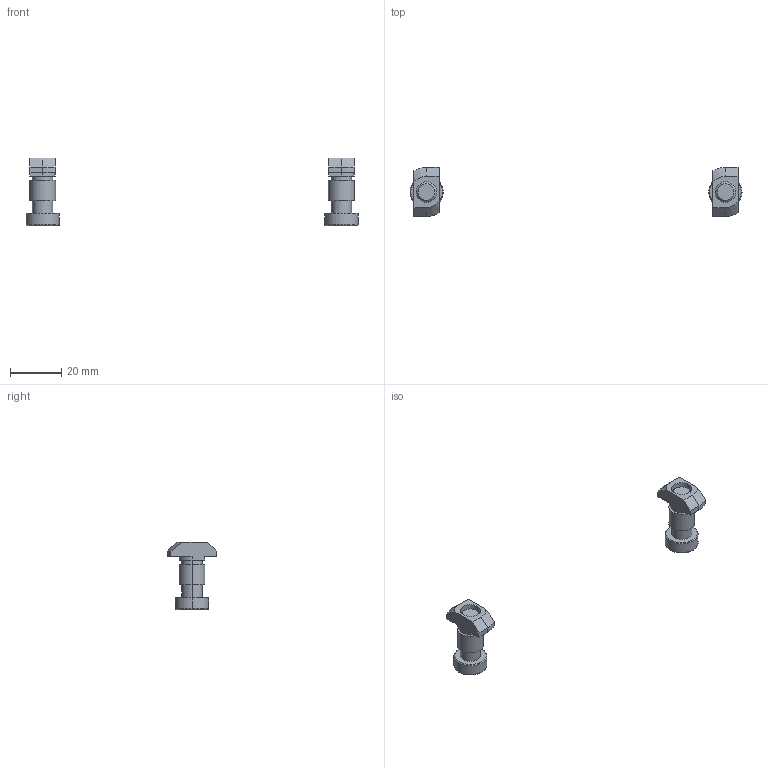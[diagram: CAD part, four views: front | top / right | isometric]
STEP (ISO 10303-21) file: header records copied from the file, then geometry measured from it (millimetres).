
FILE_DESCRIPTION (( 'STEP AP203' ), '1' );
FILE_NAME ('75000012_ASMHS-160.STEP', '2016-11-18T10:11:10', ( '' ), ( '' ), 'SwSTEP 2.0', 'SolidWorks 2015', '' );
FILE_SCHEMA (( 'CONFIG_CONTROL_DESIGN' ));
Length unit declared in the file: millimetre
Products named in the file (1): 75000012_ASMHS-160
Bounding box: 130 x 19.2 x 26.5 mm (x, y, z)
Volume: 4979.6 mm3; surface area: 4502.8 mm2
Topology: 2 solids, 2 shells, 100 faces, 236 edges, 152 vertices
Faces by surface type: plane 48, cylinder 36, cone 12, torus 4
Entity records: 3439 total; most frequent: CARTESIAN_POINT 1009, DIRECTION 494, ORIENTED_EDGE 472, EDGE_CURVE 236, AXIS2_PLACEMENT_3D 177, VERTEX_POINT 152, LINE 140, VECTOR 140
